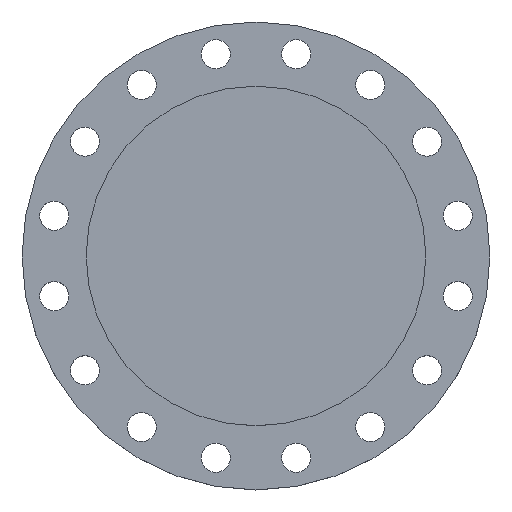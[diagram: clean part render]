
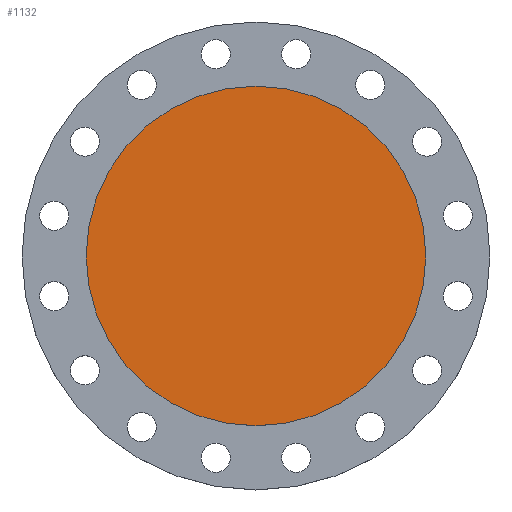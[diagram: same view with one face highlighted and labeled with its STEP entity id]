
A CAD part, top view. The second image highlights one B-rep face of the part: STEP entity #1132.
In plain terms, the highlighted planar face has unit normal (0, 0, 1).
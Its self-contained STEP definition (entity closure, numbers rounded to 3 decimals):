
#84 = CIRCLE ( 'NONE', #617, 210.5 ) ;
#168 = AXIS2_PLACEMENT_3D ( 'NONE', #407, #406, #405 ) ;
#170 = CARTESIAN_POINT ( 'NONE',  ( 210.5, 0., 0. ) ) ;
#257 = CIRCLE ( 'NONE', #168, 210.5 ) ;
#285 = DIRECTION ( 'NONE',  ( 1., 0., 0. ) ) ;
#288 = DIRECTION ( 'NONE',  ( 0., 0., 1. ) ) ;
#289 = CARTESIAN_POINT ( 'NONE',  ( 0., 0., 0. ) ) ;
#291 = PLANE ( 'NONE',  #942 ) ;
#292 = FACE_OUTER_BOUND ( 'NONE', #1336, .T. ) ;
#332 = EDGE_CURVE ( 'NONE', #1217, #1039, #84, .T. ) ;
#400 = CARTESIAN_POINT ( 'NONE',  ( -210.5, 0., 0. ) ) ;
#405 = DIRECTION ( 'NONE',  ( -1., 0., 0. ) ) ;
#406 = DIRECTION ( 'NONE',  ( 0., 0., -1. ) ) ;
#407 = CARTESIAN_POINT ( 'NONE',  ( 0., 0., 0. ) ) ;
#617 = AXIS2_PLACEMENT_3D ( 'NONE', #723, #722, #720 ) ;
#720 = DIRECTION ( 'NONE',  ( -1., 0., 0. ) ) ;
#722 = DIRECTION ( 'NONE',  ( 0., 0., -1. ) ) ;
#723 = CARTESIAN_POINT ( 'NONE',  ( 0., 0., 0. ) ) ;
#942 = AXIS2_PLACEMENT_3D ( 'NONE', #289, #288, #285 ) ;
#1031 = EDGE_CURVE ( 'NONE', #1039, #1217, #257, .T. ) ;
#1039 = VERTEX_POINT ( 'NONE', #400 ) ;
#1065 = ORIENTED_EDGE ( 'NONE', *, *, #1031, .F. ) ;
#1067 = ORIENTED_EDGE ( 'NONE', *, *, #332, .F. ) ;
#1132 = ADVANCED_FACE ( 'NONE', ( #292 ), #291, .T. ) ;
#1217 = VERTEX_POINT ( 'NONE', #170 ) ;
#1336 = EDGE_LOOP ( 'NONE', ( #1065, #1067 ) ) ;
